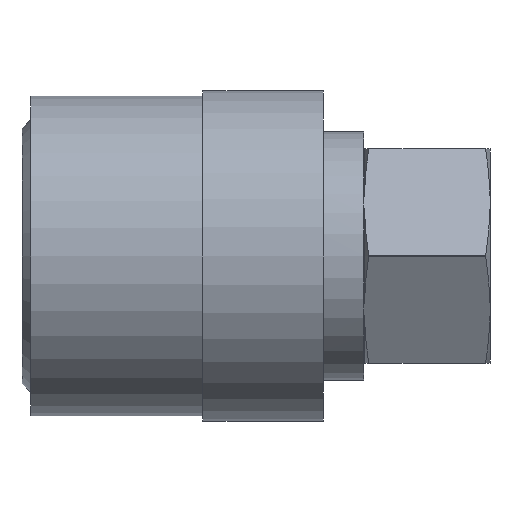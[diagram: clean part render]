
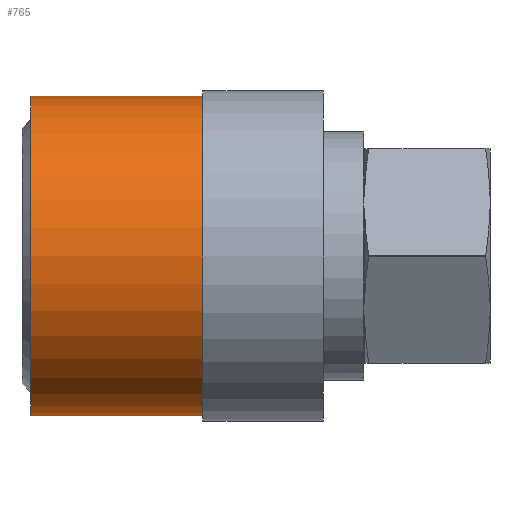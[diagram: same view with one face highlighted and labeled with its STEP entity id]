
A CAD part, front view. The second image highlights one B-rep face of the part: STEP entity #765.
In plain terms, the highlighted cylindrical face has radius 17.653 mm (diameter 35.306 mm), a full revolution.
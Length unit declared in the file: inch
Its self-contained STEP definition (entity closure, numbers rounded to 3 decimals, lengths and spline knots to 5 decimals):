
#241=ORIENTED_EDGE('',*,*,#443,.F.);
#242=ORIENTED_EDGE('',*,*,#442,.T.);
#442=EDGE_CURVE('',#539,#539,#594,.T.);
#443=EDGE_CURVE('',#540,#540,#595,.T.);
#539=VERTEX_POINT('',#1259);
#540=VERTEX_POINT('',#1262);
#594=CIRCLE('',#842,0.695);
#595=CIRCLE('',#844,0.695);
#630=EDGE_LOOP('',(#241));
#631=EDGE_LOOP('',(#242));
#696=FACE_BOUND('',#630,.T.);
#697=FACE_BOUND('',#631,.T.);
#745=CYLINDRICAL_SURFACE('',#843,0.695);
#765=ADVANCED_FACE('',(#696,#697),#745,.T.);
#842=AXIS2_PLACEMENT_3D('',#1258,#969,#970);
#843=AXIS2_PLACEMENT_3D('',#1260,#971,#972);
#844=AXIS2_PLACEMENT_3D('',#1261,#973,#974);
#969=DIRECTION('',(1.,0.,0.));
#970=DIRECTION('',(0.,0.,-1.));
#971=DIRECTION('',(1.,0.,0.));
#972=DIRECTION('',(0.,0.,-1.));
#973=DIRECTION('',(1.,0.,0.));
#974=DIRECTION('',(0.,0.,-1.));
#1258=CARTESIAN_POINT('',(0.,0.,0.));
#1259=CARTESIAN_POINT('',(0.,0.,-0.695));
#1260=CARTESIAN_POINT('',(2.,0.,0.));
#1261=CARTESIAN_POINT('',(0.75,0.,0.));
#1262=CARTESIAN_POINT('',(0.75,0.,-0.695));
